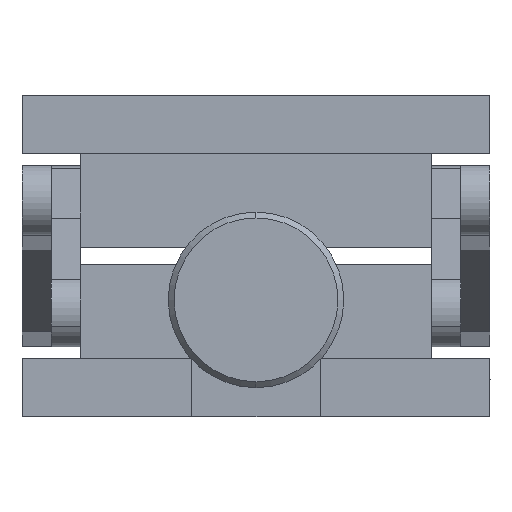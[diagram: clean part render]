
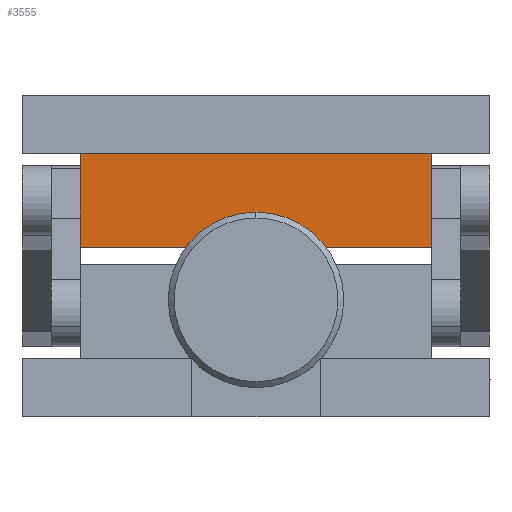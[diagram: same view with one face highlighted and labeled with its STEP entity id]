
A CAD part, left-side view. The second image highlights one B-rep face of the part: STEP entity #3555.
In plain terms, the highlighted planar face has unit normal (-1, 0, 0) as drawn and (0, 0, -1) by its records, which use the part's own axes.
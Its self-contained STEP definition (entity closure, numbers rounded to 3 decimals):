
#32 = DIRECTION ( 'NONE',  ( 0., 0., 1. ) ) ;
#971 = EDGE_LOOP ( 'NONE', ( #7813, #12493, #9647, #9619 ) ) ;
#2049 = EDGE_CURVE ( 'NONE', #13017, #11777, #3585, .T. ) ;
#2125 = VECTOR ( 'NONE', #5498, 1000. ) ;
#2489 = AXIS2_PLACEMENT_3D ( 'NONE', #13278, #32, #7779 ) ;
#3358 = FACE_OUTER_BOUND ( 'NONE', #971, .T. ) ;
#3374 = EDGE_CURVE ( 'NONE', #9028, #13017, #9518, .T. ) ;
#3555 = ADVANCED_FACE ( 'NONE', ( #3358 ), #9950, .F. ) ;
#3585 = LINE ( 'NONE', #8073, #11321 ) ;
#3689 = CARTESIAN_POINT ( 'NONE',  ( 30., 8., -84. ) ) ;
#4002 = CARTESIAN_POINT ( 'NONE',  ( 30., -8., -84. ) ) ;
#4188 = EDGE_CURVE ( 'NONE', #5184, #9028, #7904, .T. ) ;
#5184 = VERTEX_POINT ( 'NONE', #3689 ) ;
#5498 = DIRECTION ( 'NONE',  ( 0., -1., 0. ) ) ;
#5655 = CARTESIAN_POINT ( 'NONE',  ( 30., 8., -84. ) ) ;
#6110 = VECTOR ( 'NONE', #8260, 1000. ) ;
#7650 = CARTESIAN_POINT ( 'NONE',  ( 30., 8., -84. ) ) ;
#7779 = DIRECTION ( 'NONE',  ( 1., 0., 0. ) ) ;
#7813 = ORIENTED_EDGE ( 'NONE', *, *, #4188, .T. ) ;
#7904 = LINE ( 'NONE', #5655, #2125 ) ;
#8073 = CARTESIAN_POINT ( 'NONE',  ( -30., 8., -84. ) ) ;
#8084 = CARTESIAN_POINT ( 'NONE',  ( -30., 8., -84. ) ) ;
#8260 = DIRECTION ( 'NONE',  ( 1., 0., 0. ) ) ;
#8982 = EDGE_CURVE ( 'NONE', #11777, #5184, #14042, .T. ) ;
#9028 = VERTEX_POINT ( 'NONE', #12064 ) ;
#9134 = VECTOR ( 'NONE', #12851, 1000. ) ;
#9518 = LINE ( 'NONE', #4002, #9134 ) ;
#9619 = ORIENTED_EDGE ( 'NONE', *, *, #8982, .T. ) ;
#9647 = ORIENTED_EDGE ( 'NONE', *, *, #2049, .T. ) ;
#9950 = PLANE ( 'NONE',  #2489 ) ;
#11321 = VECTOR ( 'NONE', #13433, 1000. ) ;
#11777 = VERTEX_POINT ( 'NONE', #8084 ) ;
#12064 = CARTESIAN_POINT ( 'NONE',  ( 30., -8., -84. ) ) ;
#12493 = ORIENTED_EDGE ( 'NONE', *, *, #3374, .T. ) ;
#12851 = DIRECTION ( 'NONE',  ( -1., 0., 0. ) ) ;
#13017 = VERTEX_POINT ( 'NONE', #13505 ) ;
#13278 = CARTESIAN_POINT ( 'NONE',  ( -12.5, 0., -84. ) ) ;
#13433 = DIRECTION ( 'NONE',  ( 0., 1., 0. ) ) ;
#13505 = CARTESIAN_POINT ( 'NONE',  ( -30., -8., -84. ) ) ;
#14042 = LINE ( 'NONE', #7650, #6110 ) ;
